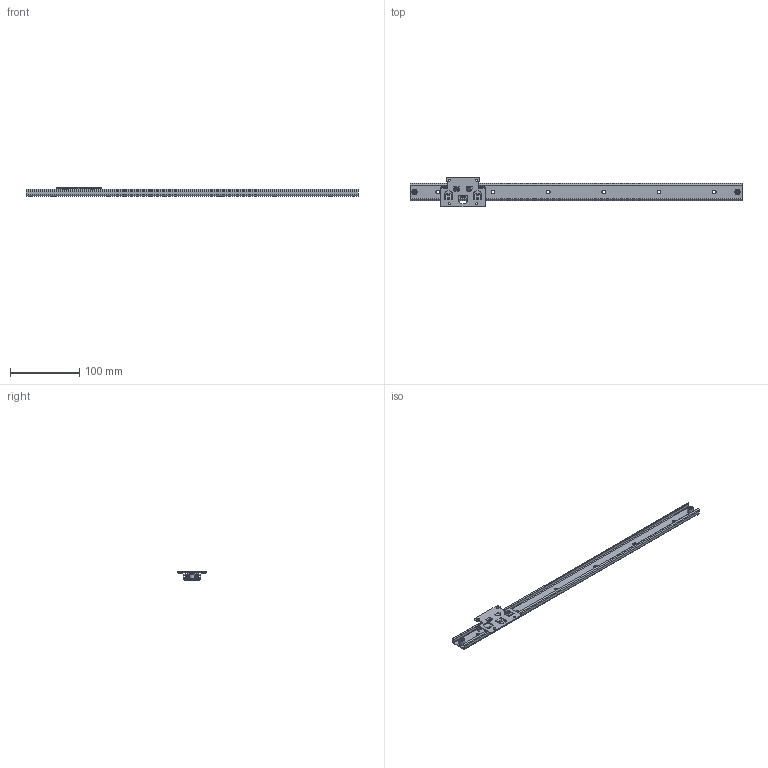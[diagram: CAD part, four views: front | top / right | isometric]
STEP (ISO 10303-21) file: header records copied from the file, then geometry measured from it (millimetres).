
FILE_DESCRIPTION((''),'1');
FILE_NAME('C:/Users/t-inoue/Desktop/25SW0480SS hp.stp','2016-07-29T02:37:20',(''),(''),'Spatial Interop R21 SP3','Kubotek KeyCreator 2011 V10.0.2 (22737)',' ');
FILE_SCHEMA(('automotive_design'));
Length unit declared in the file: millimetre
Products named in the file (430): Unnamed[1]
Bounding box: 480 x 42 x 12 mm (x, y, z)
Surface area: 47534.8 mm2 (no closed solid volume)
Topology: 0 solids, 430 shells, 430 faces, 1838 edges, 1681 vertices
Faces by surface type: plane 186, cylinder 130, cone 105, torus 8, sphere 1
Full cylindrical faces by diameter (mm): 1.6 x1, 3.2 x6, 3.3 x4, 3.5 x1, 4 x10, 5 x6, 5.5 x4, 5.6 x2, 7 x6, 8.2 x2
Entity records: 36770 total; most frequent: CARTESIAN_POINT 4432, DIRECTION 4193, PRESENTATION_STYLE_ASSIGNMENT 1720, COLOUR_RGB 1720, AXIS2_PLACEMENT_3D 1687, ORIENTED_EDGE 1654, EDGE_CURVE 1654, VERTEX_POINT 1654
